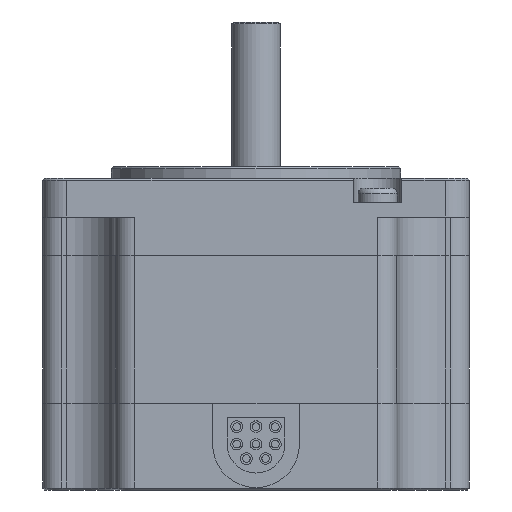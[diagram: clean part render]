
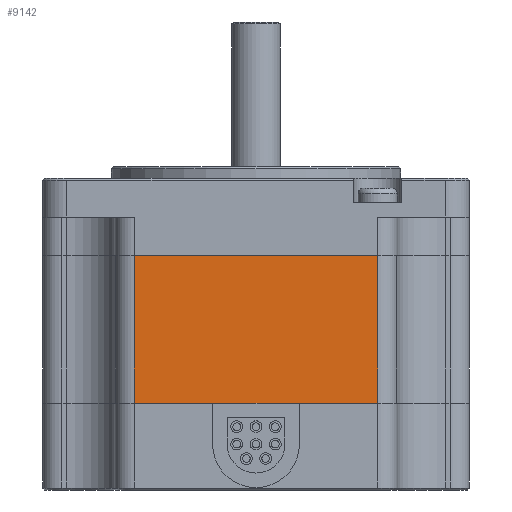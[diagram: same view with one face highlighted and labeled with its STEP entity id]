
A CAD part, front view. The second image highlights one B-rep face of the part: STEP entity #9142.
In plain terms, the highlighted planar face has unit normal (0, -1, 0).
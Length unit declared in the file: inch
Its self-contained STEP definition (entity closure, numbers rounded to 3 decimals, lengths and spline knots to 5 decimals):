
#95 = ORIENTED_EDGE ( 'NONE', *, *, #829, .T. ) ;
#368 = ORIENTED_EDGE ( 'NONE', *, *, #1246, .F. ) ;
#690 = EDGE_CURVE ( 'NONE', #776, #1244, #10933, .T. ) ;
#776 = VERTEX_POINT ( 'NONE', #11290 ) ;
#829 = EDGE_CURVE ( 'NONE', #776, #5808, #11503, .T. ) ;
#1190 = ORIENTED_EDGE ( 'NONE', *, *, #690, .F. ) ;
#1244 = VERTEX_POINT ( 'NONE', #12810 ) ;
#1246 = EDGE_CURVE ( 'NONE', #1244, #5817, #12847, .T. ) ;
#4381 = CARTESIAN_POINT ( 'NONE',  ( 0.63, -1.104, -0.4 ) ) ;
#4410 = DIRECTION ( 'NONE',  ( -1., 0., 0. ) ) ;
#4411 = VECTOR ( 'NONE', #4410, 39.37008 ) ;
#4416 = CARTESIAN_POINT ( 'NONE',  ( -0.63, -1.104, -0.4 ) ) ;
#4418 = CARTESIAN_POINT ( 'NONE',  ( 0.63, -1.104, -0.4 ) ) ;
#4419 = LINE ( 'NONE', #4418, #4411 ) ;
#5427 = FACE_OUTER_BOUND ( 'NONE', #9006, .T. ) ;
#5477 = DIRECTION ( 'NONE',  ( -1., 0., 0. ) ) ;
#5479 = DIRECTION ( 'NONE',  ( 0., 1., 0. ) ) ;
#5481 = CARTESIAN_POINT ( 'NONE',  ( 0.63, -1.104, -1.164 ) ) ;
#5482 = AXIS2_PLACEMENT_3D ( 'NONE', #5481, #5479, #5477 ) ;
#5498 = PLANE ( 'NONE',  #5482 ) ;
#5808 = VERTEX_POINT ( 'NONE', #4381 ) ;
#5817 = VERTEX_POINT ( 'NONE', #4416 ) ;
#5820 = EDGE_CURVE ( 'NONE', #5808, #5817, #4419, .T. ) ;
#6108 = ORIENTED_EDGE ( 'NONE', *, *, #5820, .T. ) ;
#8732 = CARTESIAN_POINT ( 'NONE',  ( 0.63, -1.104, -1.164 ) ) ;
#8739 = VECTOR ( 'NONE', #9189, 39.37008 ) ;
#9006 = EDGE_LOOP ( 'NONE', ( #6108, #368, #1190, #95 ) ) ;
#9142 = ADVANCED_FACE ( 'NONE', ( #5427 ), #5498, .F. ) ;
#9189 = DIRECTION ( 'NONE',  ( -1., 0., 0. ) ) ;
#10933 = LINE ( 'NONE', #8732, #8739 ) ;
#11290 = CARTESIAN_POINT ( 'NONE',  ( 0.63, -1.104, -1.164 ) ) ;
#11490 = DIRECTION ( 'NONE',  ( 0., 0., 1. ) ) ;
#11491 = VECTOR ( 'NONE', #11490, 39.37008 ) ;
#11492 = CARTESIAN_POINT ( 'NONE',  ( 0.63, -1.104, -1.164 ) ) ;
#11503 = LINE ( 'NONE', #11492, #11491 ) ;
#12810 = CARTESIAN_POINT ( 'NONE',  ( -0.63, -1.104, -1.164 ) ) ;
#12838 = DIRECTION ( 'NONE',  ( 0., 0., 1. ) ) ;
#12839 = VECTOR ( 'NONE', #12838, 39.37008 ) ;
#12840 = CARTESIAN_POINT ( 'NONE',  ( -0.63, -1.104, -1.164 ) ) ;
#12847 = LINE ( 'NONE', #12840, #12839 ) ;
